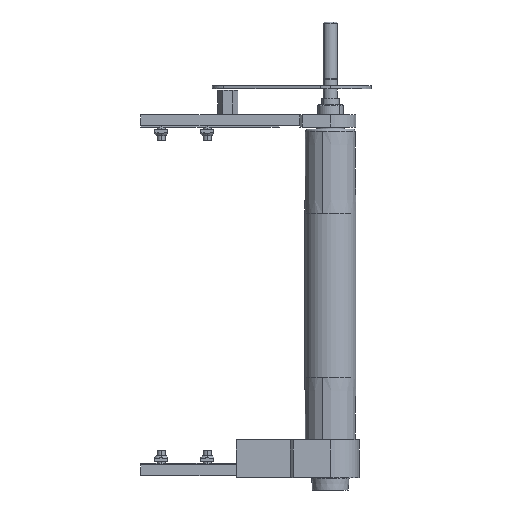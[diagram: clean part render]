
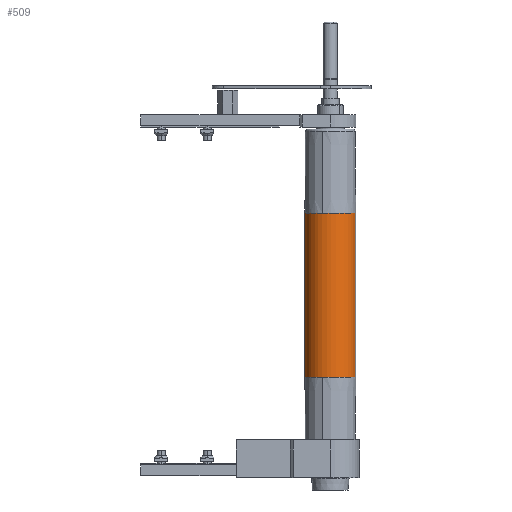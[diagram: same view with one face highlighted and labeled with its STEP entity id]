
A CAD part, front view. The second image highlights one B-rep face of the part: STEP entity #509.
In plain terms, the highlighted cylindrical face has radius 25 mm (diameter 50 mm), a partial arc.
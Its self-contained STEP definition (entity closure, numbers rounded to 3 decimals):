
#117 = LINE ( 'NONE', #3370, #939 ) ;
#225 = VECTOR ( 'NONE', #6310, 1000. ) ;
#509 = ADVANCED_FACE ( 'NONE', ( #16183 ), #2387, .T. ) ;
#939 = VECTOR ( 'NONE', #8528, 1000. ) ;
#1551 = EDGE_CURVE ( 'NONE', #1597, #8788, #117, .T. ) ;
#1597 = VERTEX_POINT ( 'NONE', #12387 ) ;
#2387 = CYLINDRICAL_SURFACE ( 'NONE', #12766, 25. ) ;
#2530 = AXIS2_PLACEMENT_3D ( 'NONE', #7893, #15693, #6603 ) ;
#3011 = AXIS2_PLACEMENT_3D ( 'NONE', #5312, #14386, #9235 ) ;
#3370 = CARTESIAN_POINT ( 'NONE',  ( 160., 0., 25. ) ) ;
#3759 = CARTESIAN_POINT ( 'NONE',  ( 160., 0., -25. ) ) ;
#4167 = DIRECTION ( 'NONE',  ( -1., 0., 0. ) ) ;
#4300 = CIRCLE ( 'NONE', #15476, 25. ) ;
#4483 = ORIENTED_EDGE ( 'NONE', *, *, #11123, .T. ) ;
#5312 = CARTESIAN_POINT ( 'NONE',  ( -80., 0., 0. ) ) ;
#5686 = ORIENTED_EDGE ( 'NONE', *, *, #6822, .F. ) ;
#5739 = CIRCLE ( 'NONE', #13997, 25. ) ;
#6310 = DIRECTION ( 'NONE',  ( -1., 0., 0. ) ) ;
#6343 = DIRECTION ( 'NONE',  ( -1., 0., 0. ) ) ;
#6603 = DIRECTION ( 'NONE',  ( 0., -1., 0. ) ) ;
#6753 = ORIENTED_EDGE ( 'NONE', *, *, #7373, .T. ) ;
#6822 = EDGE_CURVE ( 'NONE', #8788, #8772, #7118, .T. ) ;
#6895 = CARTESIAN_POINT ( 'NONE',  ( 160., 0., 0. ) ) ;
#7118 = CIRCLE ( 'NONE', #3011, 25. ) ;
#7373 = EDGE_CURVE ( 'NONE', #16669, #13625, #10129, .T. ) ;
#7560 = ORIENTED_EDGE ( 'NONE', *, *, #12477, .F. ) ;
#7893 = CARTESIAN_POINT ( 'NONE',  ( 80., 0., 0. ) ) ;
#8187 = CARTESIAN_POINT ( 'NONE',  ( -80., 0., -25. ) ) ;
#8528 = DIRECTION ( 'NONE',  ( -1., 0., 0. ) ) ;
#8772 = VERTEX_POINT ( 'NONE', #12019 ) ;
#8788 = VERTEX_POINT ( 'NONE', #9351 ) ;
#9044 = DIRECTION ( 'NONE',  ( 0., 0., 1. ) ) ;
#9152 = VERTEX_POINT ( 'NONE', #9701 ) ;
#9235 = DIRECTION ( 'NONE',  ( 0., -1., 0. ) ) ;
#9351 = CARTESIAN_POINT ( 'NONE',  ( -80., 0., 25. ) ) ;
#9701 = CARTESIAN_POINT ( 'NONE',  ( 80., 25., 0. ) ) ;
#10129 = LINE ( 'NONE', #3759, #225 ) ;
#10738 = ORIENTED_EDGE ( 'NONE', *, *, #16581, .T. ) ;
#10848 = CIRCLE ( 'NONE', #2530, 25. ) ;
#11123 = EDGE_CURVE ( 'NONE', #9152, #16669, #10848, .T. ) ;
#11408 = ORIENTED_EDGE ( 'NONE', *, *, #1551, .F. ) ;
#11476 = EDGE_LOOP ( 'NONE', ( #10738, #4483, #6753, #7560, #5686, #11408 ) ) ;
#11934 = CARTESIAN_POINT ( 'NONE',  ( 80., 0., 0. ) ) ;
#12019 = CARTESIAN_POINT ( 'NONE',  ( -80., 25., 0. ) ) ;
#12387 = CARTESIAN_POINT ( 'NONE',  ( 80., 0., 25. ) ) ;
#12477 = EDGE_CURVE ( 'NONE', #8772, #13625, #5739, .T. ) ;
#12766 = AXIS2_PLACEMENT_3D ( 'NONE', #6895, #12845, #9044 ) ;
#12845 = DIRECTION ( 'NONE',  ( -1., 0., 0. ) ) ;
#13237 = DIRECTION ( 'NONE',  ( 0., -1., 0. ) ) ;
#13625 = VERTEX_POINT ( 'NONE', #8187 ) ;
#13997 = AXIS2_PLACEMENT_3D ( 'NONE', #14102, #6343, #15415 ) ;
#14102 = CARTESIAN_POINT ( 'NONE',  ( -80., 0., 0. ) ) ;
#14386 = DIRECTION ( 'NONE',  ( -1., 0., 0. ) ) ;
#14649 = CARTESIAN_POINT ( 'NONE',  ( 80., 0., -25. ) ) ;
#15415 = DIRECTION ( 'NONE',  ( 0., -1., 0. ) ) ;
#15476 = AXIS2_PLACEMENT_3D ( 'NONE', #11934, #4167, #13237 ) ;
#15693 = DIRECTION ( 'NONE',  ( -1., 0., 0. ) ) ;
#16183 = FACE_OUTER_BOUND ( 'NONE', #11476, .T. ) ;
#16581 = EDGE_CURVE ( 'NONE', #1597, #9152, #4300, .T. ) ;
#16669 = VERTEX_POINT ( 'NONE', #14649 ) ;
